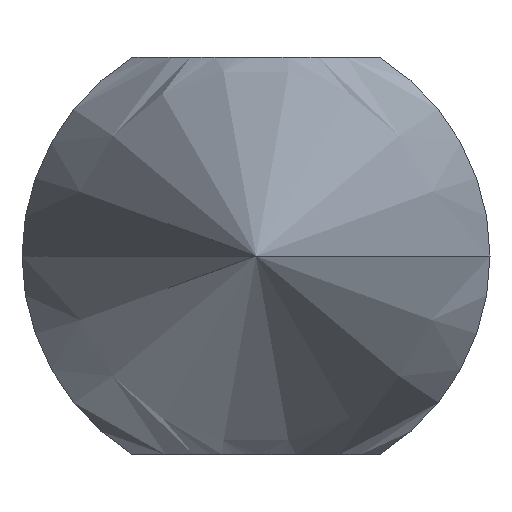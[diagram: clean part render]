
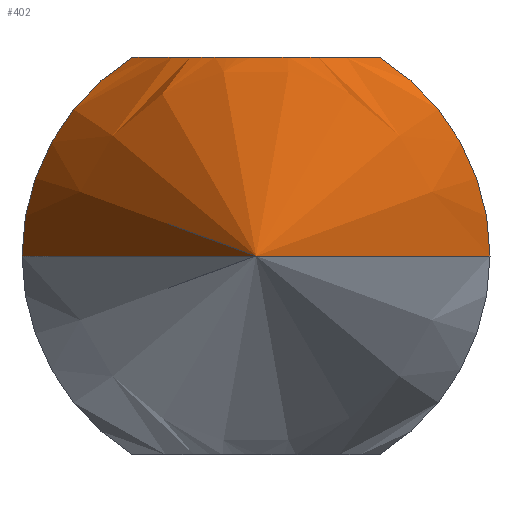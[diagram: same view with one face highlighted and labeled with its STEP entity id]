
A CAD part, front view. The second image highlights one B-rep face of the part: STEP entity #402.
In plain terms, the highlighted conical face has half-angle 20.323 degrees and reference radius 10 mm.
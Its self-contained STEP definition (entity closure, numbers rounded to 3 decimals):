
#1 = CARTESIAN_POINT ( 'NONE',  ( 0., 0., 0. ) ) ;
#3 = ORIENTED_EDGE ( 'NONE', *, *, #239, .T. ) ;
#4 = EDGE_LOOP ( 'NONE', ( #7, #293, #46, #3, #173 ) ) ;
#5 = EDGE_CURVE ( 'NONE', #201, #333, #400, .T. ) ;
#6 = CARTESIAN_POINT ( 'NONE',  ( 0., 0., 0. ) ) ;
#7 = ORIENTED_EDGE ( 'NONE', *, *, #212, .F. ) ;
#42 = CIRCLE ( 'NONE', #145, 10. ) ;
#46 = ORIENTED_EDGE ( 'NONE', *, *, #5, .T. ) ;
#51 = VECTOR ( 'NONE', #130, 1000. ) ;
#57 = CARTESIAN_POINT ( 'NONE',  ( 1.141, -3.856, 8.5 ) ) ;
#60 = CARTESIAN_POINT ( 'NONE',  ( 3.477, -2.227, 8.5 ) ) ;
#65 = CARTESIAN_POINT ( 'NONE',  ( 1.916, -3.484, 8.5 ) ) ;
#77 = LINE ( 'NONE', #172, #51 ) ;
#89 = CARTESIAN_POINT ( 'NONE',  ( 10., 0., 0. ) ) ;
#92 = CARTESIAN_POINT ( 'NONE',  ( -1.118, -3.864, 8.5 ) ) ;
#95 = CARTESIAN_POINT ( 'NONE',  ( -0.565, -4.011, 8.5 ) ) ;
#96 = AXIS2_PLACEMENT_3D ( 'NONE', #6, #228, #342 ) ;
#100 = VERTEX_POINT ( 'NONE', #349 ) ;
#115 = CONICAL_SURFACE ( 'NONE', #262, 10., 0.355 ) ;
#130 = DIRECTION ( 'NONE',  ( 0.347, 0.938, 0. ) ) ;
#133 = VERTEX_POINT ( 'NONE', #272 ) ;
#136 = CARTESIAN_POINT ( 'NONE',  ( 5.268, 0., 8.5 ) ) ;
#138 = CARTESIAN_POINT ( 'NONE',  ( -2.159, -3.361, 8.5 ) ) ;
#145 = AXIS2_PLACEMENT_3D ( 'NONE', #356, #244, #205 ) ;
#156 = B_SPLINE_CURVE_WITH_KNOTS ( 'NONE', 3,
 ( #136, #440, #372, #183, #60, #397, #435, #175, #65, #290, #57, #329, #284, #437, #95, #92, #181, #138, #218, #250, #367, #473, #403, #287 ),
 .UNSPECIFIED., .F., .F.,
 ( 4, 2, 2, 2, 2, 2, 2, 2, 2, 2, 2, 4 ),
 ( 0.054, 0.056, 0.058, 0.059, 0.059, 0.06, 0.061, 0.062, 0.063, 0.065, 0.066, 0.068 ),
 .UNSPECIFIED. ) ;
#172 = CARTESIAN_POINT ( 'NONE',  ( 10., 0., 0. ) ) ;
#173 = ORIENTED_EDGE ( 'NONE', *, *, #204, .T. ) ;
#175 = CARTESIAN_POINT ( 'NONE',  ( 2.161, -3.328, 8.5 ) ) ;
#181 = CARTESIAN_POINT ( 'NONE',  ( -1.387, -3.757, 8.5 ) ) ;
#183 = CARTESIAN_POINT ( 'NONE',  ( 3.864, -1.805, 8.5 ) ) ;
#201 = VERTEX_POINT ( 'NONE', #89 ) ;
#204 = EDGE_CURVE ( 'NONE', #430, #133, #42, .T. ) ;
#205 = DIRECTION ( 'NONE',  ( 1., 0., 0. ) ) ;
#212 = EDGE_CURVE ( 'NONE', #100, #133, #345, .T. ) ;
#218 = CARTESIAN_POINT ( 'NONE',  ( -2.622, -3.007, 8.5 ) ) ;
#226 = CARTESIAN_POINT ( 'NONE',  ( -5.268, 0., 8.5 ) ) ;
#228 = DIRECTION ( 'NONE',  ( 0., -1., 0. ) ) ;
#229 = EDGE_CURVE ( 'NONE', #100, #201, #77, .T. ) ;
#239 = EDGE_CURVE ( 'NONE', #333, #430, #156, .T. ) ;
#244 = DIRECTION ( 'NONE',  ( 0., -1., 0. ) ) ;
#250 = CARTESIAN_POINT ( 'NONE',  ( -3.47, -2.234, 8.5 ) ) ;
#254 = FACE_OUTER_BOUND ( 'NONE', #4, .T. ) ;
#257 = DIRECTION ( 'NONE',  ( 0., 1., 0. ) ) ;
#262 = AXIS2_PLACEMENT_3D ( 'NONE', #1, #257, #407 ) ;
#272 = CARTESIAN_POINT ( 'NONE',  ( -10., 0., 0. ) ) ;
#278 = DIRECTION ( 'NONE',  ( -0.347, 0.938, 0. ) ) ;
#284 = CARTESIAN_POINT ( 'NONE',  ( 0.299, -4.049, 8.5 ) ) ;
#287 = CARTESIAN_POINT ( 'NONE',  ( -5.268, 0., 8.5 ) ) ;
#290 = CARTESIAN_POINT ( 'NONE',  ( 1.408, -3.747, 8.5 ) ) ;
#293 = ORIENTED_EDGE ( 'NONE', *, *, #229, .T. ) ;
#329 = CARTESIAN_POINT ( 'NONE',  ( 0.582, -4.008, 8.5 ) ) ;
#333 = VERTEX_POINT ( 'NONE', #373 ) ;
#342 = DIRECTION ( 'NONE',  ( 1., 0., 0. ) ) ;
#345 = LINE ( 'NONE', #424, #466 ) ;
#349 = CARTESIAN_POINT ( 'NONE',  ( 0., -27., 0. ) ) ;
#356 = CARTESIAN_POINT ( 'NONE',  ( 0., 0., 0. ) ) ;
#367 = CARTESIAN_POINT ( 'NONE',  ( -3.858, -1.813, 8.5 ) ) ;
#372 = CARTESIAN_POINT ( 'NONE',  ( 4.598, -0.922, 8.5 ) ) ;
#373 = CARTESIAN_POINT ( 'NONE',  ( 5.268, 0., 8.5 ) ) ;
#397 = CARTESIAN_POINT ( 'NONE',  ( 2.845, -2.805, 8.5 ) ) ;
#400 = CIRCLE ( 'NONE', #96, 10. ) ;
#402 = ADVANCED_FACE ( 'NONE', ( #254 ), #115, .T. ) ;
#403 = CARTESIAN_POINT ( 'NONE',  ( -4.938, -0.469, 8.5 ) ) ;
#407 = DIRECTION ( 'NONE',  ( -1., 0., 0. ) ) ;
#424 = CARTESIAN_POINT ( 'NONE',  ( -10., 0., 0. ) ) ;
#430 = VERTEX_POINT ( 'NONE', #226 ) ;
#435 = CARTESIAN_POINT ( 'NONE',  ( 2.625, -2.988, 8.5 ) ) ;
#437 = CARTESIAN_POINT ( 'NONE',  ( -0.273, -4.051, 8.5 ) ) ;
#440 = CARTESIAN_POINT ( 'NONE',  ( 4.941, -0.465, 8.5 ) ) ;
#466 = VECTOR ( 'NONE', #278, 1000. ) ;
#473 = CARTESIAN_POINT ( 'NONE',  ( -4.592, -0.931, 8.5 ) ) ;
